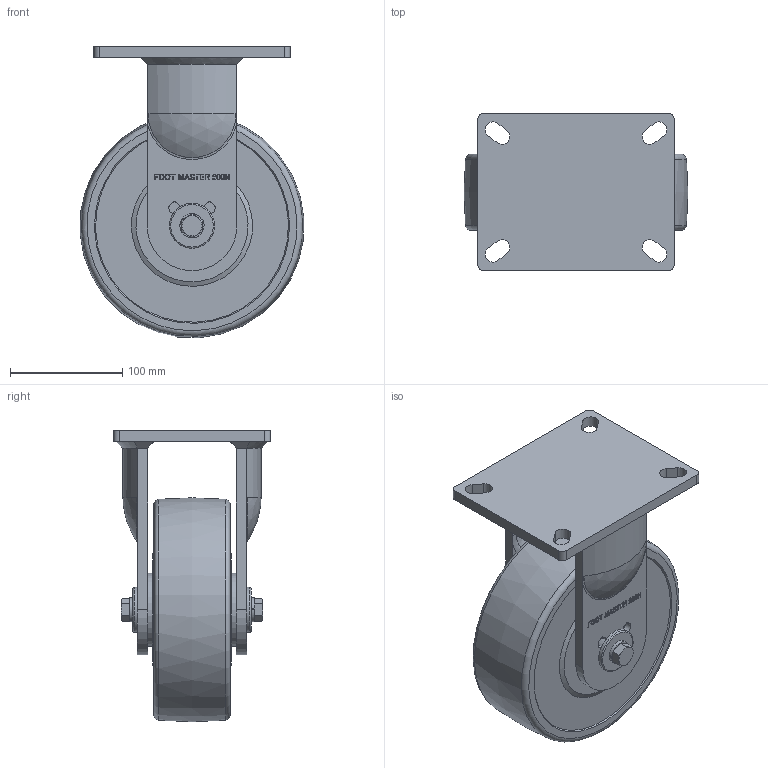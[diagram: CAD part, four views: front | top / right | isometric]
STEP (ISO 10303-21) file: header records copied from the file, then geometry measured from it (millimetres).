
FILE_DESCRIPTION(/* description */ (''),/* implementation_level */ '2;1');
FILE_NAME(/* name */ 'Y:\1.기술연구소\2.연구개발 진행중\133.고하중캐스터 브레이크 타입 변경건_2025.11.03\1.도면\4.홈페이지용 도면\01. 3D\GXT-200 SERIES\GXT-200-STEP\GXT-200N-ARF-MCD.stp',/* time_stamp */ '2026-07-21T18:52:58+09:00',/* author */ ('장용하'),/* organization */ (''),/* preprocessor_version */ 'ST-DEVELOPER v18.1',/* originating_system */ 'Autodesk Inventor 2021',/* authorisation */ '');
FILE_SCHEMA (('CONFIG_CONTROL_DESIGN'));
Length unit declared in the file: millimetre
Products named in the file (1): GXT-200N-ARF-MCD
Bounding box: 199.58 x 140 x 259.79 mm (x, y, z)
Volume: 2646687 mm3; surface area: 214584.9 mm2
Topology: 1 solids, 1 shells, 623 faces, 1685 edges, 1114 vertices
Faces by surface type: plane 302, bspline 233, cylinder 56, cone 18, torus 10, sphere 4
Full cylindrical faces by diameter (mm): 12 x2, 40 x2, 65 x2
Entity records: 20257 total; most frequent: CARTESIAN_POINT 5989, ORIENTED_EDGE 3370, DIRECTION 2188, EDGE_CURVE 1685, VERTEX_POINT 1114, LINE 984, VECTOR 984, EDGE_LOOP 687
